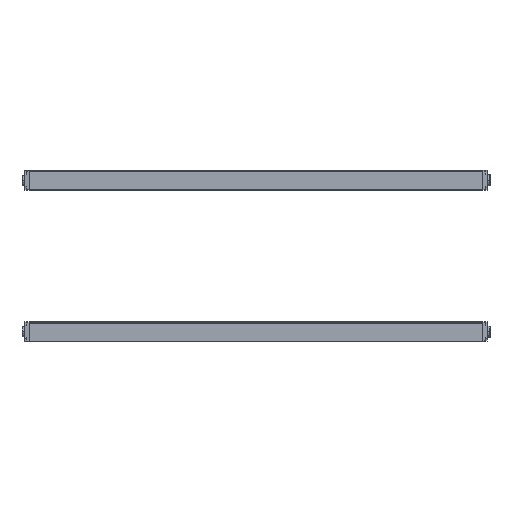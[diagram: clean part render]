
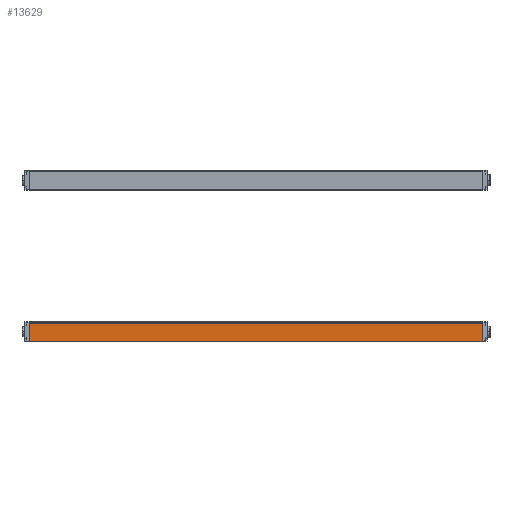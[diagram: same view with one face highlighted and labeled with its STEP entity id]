
A CAD part, left-side view. The second image highlights one B-rep face of the part: STEP entity #13629.
In plain terms, the highlighted planar face has unit normal (-1, 0, -0.009) as drawn and (1, 0, 0) by its records, which use the part's own axes.
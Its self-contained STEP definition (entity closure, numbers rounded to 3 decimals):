
#75 = VERTEX_POINT ( 'NONE', #16316 ) ;
#464 = VECTOR ( 'NONE', #17935, 1000. ) ;
#576 = ORIENTED_EDGE ( 'NONE', *, *, #12625, .T. ) ;
#935 = EDGE_CURVE ( 'NONE', #15578, #75, #3981, .T. ) ;
#1130 = CARTESIAN_POINT ( 'NONE',  ( 15., 690., 10.9 ) ) ;
#1509 = CARTESIAN_POINT ( 'NONE',  ( 15., 0., 10.9 ) ) ;
#1727 = CARTESIAN_POINT ( 'NONE',  ( 15., 690., -16.693 ) ) ;
#2599 = CARTESIAN_POINT ( 'NONE',  ( 15., 0., -16.9 ) ) ;
#2900 = PLANE ( 'NONE',  #15995 ) ;
#2994 = DIRECTION ( 'NONE',  ( 0., 0., 1. ) ) ;
#3233 = DIRECTION ( 'NONE',  ( 0., 0., -1. ) ) ;
#3616 = VERTEX_POINT ( 'NONE', #1727 ) ;
#3981 = LINE ( 'NONE', #2599, #5138 ) ;
#5138 = VECTOR ( 'NONE', #17999, 1000. ) ;
#5439 = DIRECTION ( 'NONE',  ( 0., -1., 0. ) ) ;
#5822 = CARTESIAN_POINT ( 'NONE',  ( 15., 690., -16.9 ) ) ;
#6351 = VERTEX_POINT ( 'NONE', #1130 ) ;
#7165 = LINE ( 'NONE', #10995, #13097 ) ;
#7314 = ORIENTED_EDGE ( 'NONE', *, *, #10941, .T. ) ;
#8379 = FACE_OUTER_BOUND ( 'NONE', #13123, .T. ) ;
#8386 = CARTESIAN_POINT ( 'NONE',  ( 15., 690., -16.693 ) ) ;
#8466 = DIRECTION ( 'NONE',  ( -1., 0., 0. ) ) ;
#10157 = LINE ( 'NONE', #15706, #13108 ) ;
#10783 = ORIENTED_EDGE ( 'NONE', *, *, #935, .T. ) ;
#10941 = EDGE_CURVE ( 'NONE', #75, #3616, #13662, .T. ) ;
#10995 = CARTESIAN_POINT ( 'NONE',  ( 15., 690., 10.9 ) ) ;
#12625 = EDGE_CURVE ( 'NONE', #6351, #15578, #7165, .T. ) ;
#12888 = EDGE_CURVE ( 'NONE', #6351, #3616, #10157, .T. ) ;
#13097 = VECTOR ( 'NONE', #5439, 1000. ) ;
#13108 = VECTOR ( 'NONE', #3233, 1000. ) ;
#13123 = EDGE_LOOP ( 'NONE', ( #10783, #7314, #16132, #576 ) ) ;
#13629 = ADVANCED_FACE ( 'NONE', ( #8379 ), #2900, .F. ) ;
#13662 = LINE ( 'NONE', #8386, #464 ) ;
#15578 = VERTEX_POINT ( 'NONE', #1509 ) ;
#15706 = CARTESIAN_POINT ( 'NONE',  ( 15., 690., -16.9 ) ) ;
#15995 = AXIS2_PLACEMENT_3D ( 'NONE', #5822, #8466, #2994 ) ;
#16132 = ORIENTED_EDGE ( 'NONE', *, *, #12888, .F. ) ;
#16316 = CARTESIAN_POINT ( 'NONE',  ( 15., 0., -16.693 ) ) ;
#17935 = DIRECTION ( 'NONE',  ( 0., 1., 0. ) ) ;
#17999 = DIRECTION ( 'NONE',  ( 0., 0., -1. ) ) ;
